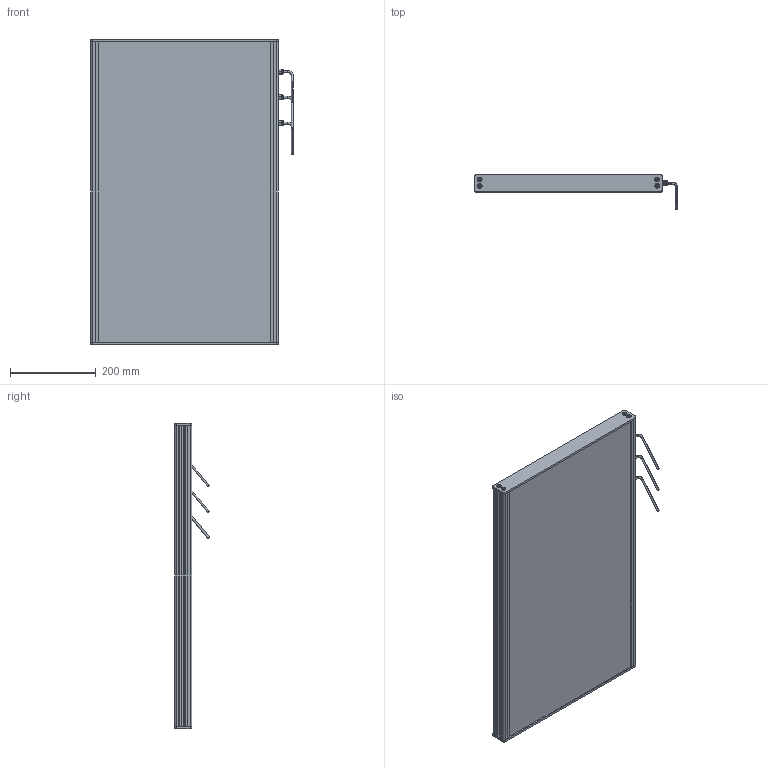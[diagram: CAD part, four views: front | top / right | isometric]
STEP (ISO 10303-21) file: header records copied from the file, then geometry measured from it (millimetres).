
FILE_DESCRIPTION (( 'STEP AP214' ), '1' );
FILE_NAME ('EFFI-BL-400-700T-3M12.STEP', '2021-07-02T10:06:27', ( '' ), ( '' ), 'SwSTEP 2.0', 'SolidWorks 2021', '' );
FILE_SCHEMA (( 'AUTOMOTIVE_DESIGN' ));
Length unit declared in the file: millimetre
Products named in the file (7): Pièce2^EFFI-BL-XXX-YYYT + 3 M12; 003776; EFFI-BL-400-700T-3M12; cordon_Avec cable; profile modif_lg 99.5 mm; bord fin modif_lg 436.5 mm
Assembly tree (16 placements, depth 2):
  EFFI-BL-400-700T-3M12
    bord fin modif_lg 436.5 mm  x2
    profile modif_lg 99.5 mm
    Pièce2^EFFI-BL-XXX-YYYT + 3 M12
    profile modif_lg 99.5 mm
    003776  x8
    cordon_Avec cable  x3
Bounding box: 471.15 x 80.73 x 710 mm (x, y, z)
Volume: 10682208.5 mm3; surface area: 931794.6 mm2
Topology: 13 solids, 31 shells, 748 faces, 1876 edges, 1201 vertices
Faces by surface type: plane 417, bspline 143, cylinder 136, torus 30, cone 22
Entity records: 16630 total; most frequent: CARTESIAN_POINT 5354, ORIENTED_EDGE 2196, DIRECTION 1926, EDGE_CURVE 1102, LINE 802, VECTOR 802, VERTEX_POINT 724, AXIS2_PLACEMENT_3D 562
